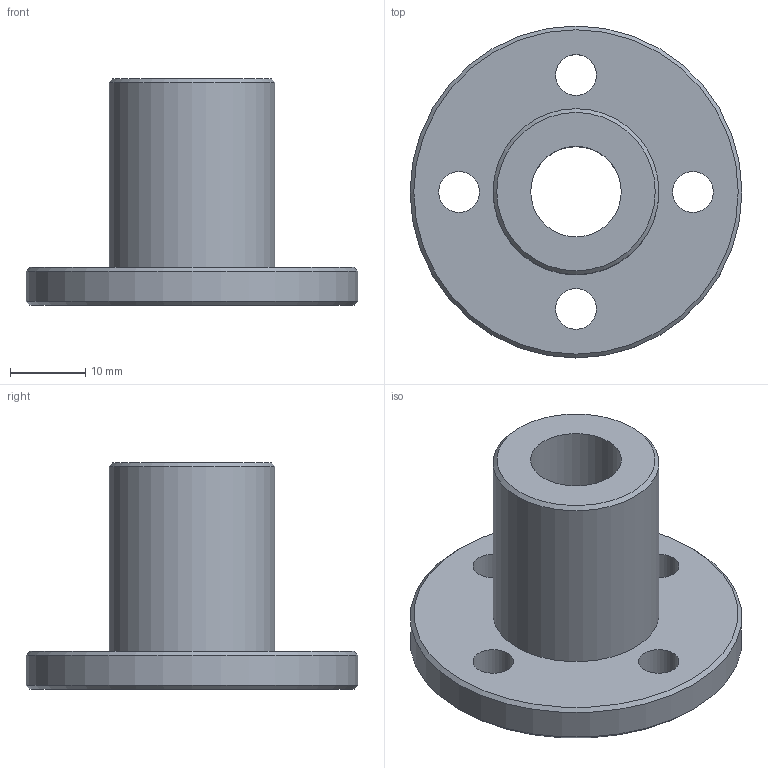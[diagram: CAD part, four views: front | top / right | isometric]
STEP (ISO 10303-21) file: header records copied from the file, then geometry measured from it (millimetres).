
FILE_DESCRIPTION(('STEP AP203'),'1');
FILE_NAME('//192.168.1.1/share/s-4 技術開発/s-4-4_CAD/s-4-4-3_見直し済み/018 修正済み/TMFON/TMFON_TOP/TMFON-12R.step','2022-02-08T05:48:27',(' '),(' '),'Spatial InterOp 3D',' ',' ');
FILE_SCHEMA(('CONFIG_CONTROL_DESIGN'));
Length unit declared in the file: millimetre
Products named in the file (1): 1
Bounding box: 44 x 44 x 30 mm (x, y, z)
Volume: 13212.2 mm3; surface area: 6418.7 mm2
Topology: 1 solids, 1 shells, 13 faces, 27 edges, 17 vertices
Faces by surface type: cylinder 7, plane 3, cone 3
Full cylindrical faces by diameter (mm): 5.4 x4, 12 x1, 22 x1, 44 x1
Entity records: 368 total; most frequent: DIRECTION 62, CARTESIAN_POINT 48, EDGE_LOOP 34, ORIENTED_EDGE 34, AXIS2_PLACEMENT_3D 31, FACE_OUTER_BOUND 20, EDGE_CURVE 17, VERTEX_POINT 17
